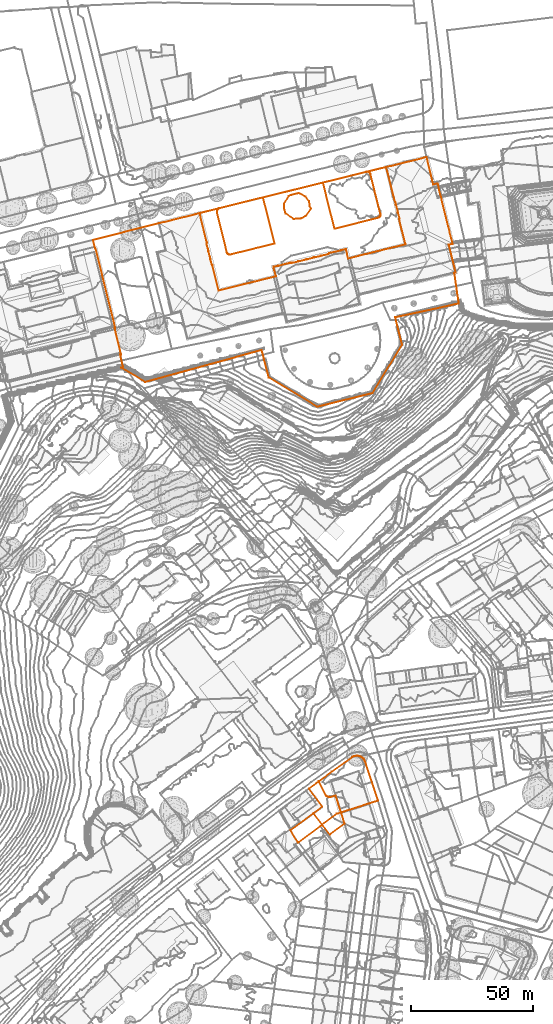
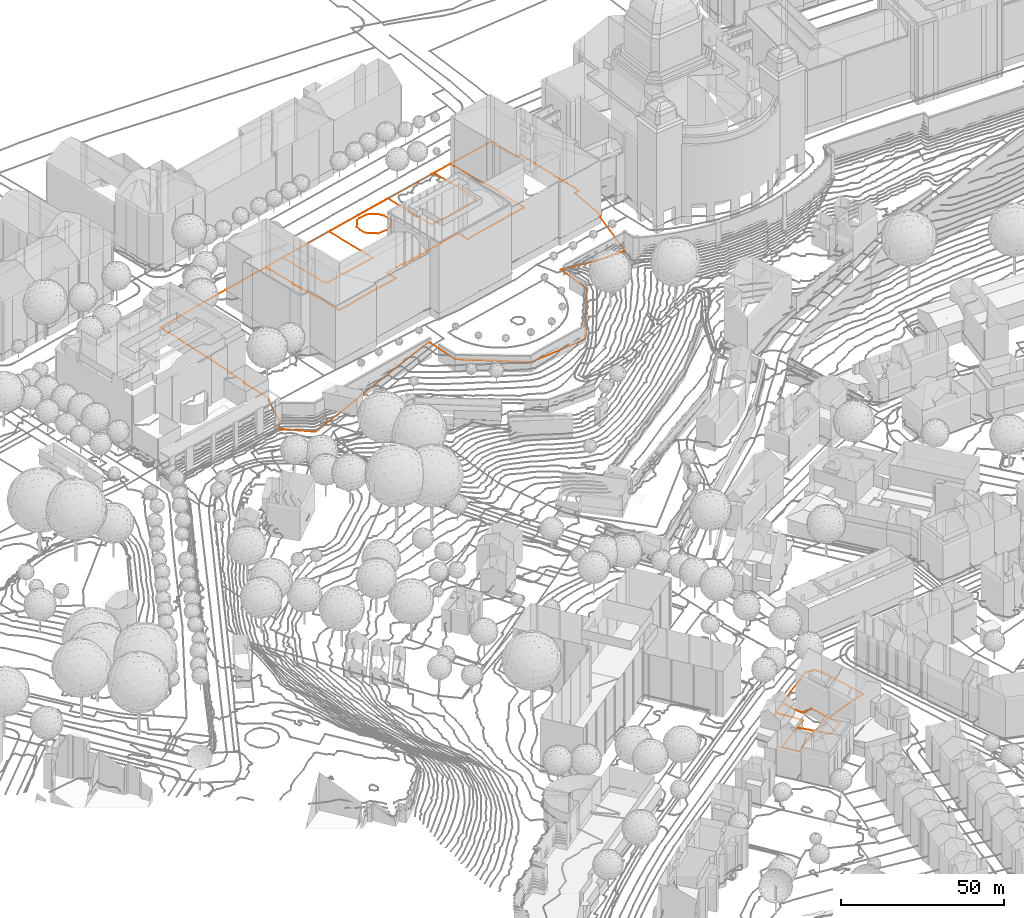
# Not in any storey, part 184 of 494: 5 proxies.
"""IFC2X3 model written with IfcOpenShell, lengths in metres."""

from ifc_helpers import new_model, entity, si_unit, frame, origin_with_axes, place, context, subcontext, project, element, save


model = new_model("IFC2X3")

# Units and contexts
model_context = context("Model", 3, precision=1e-05, world=origin_with_axes())
body_context = subcontext(model_context, "Body", "Model", "MODEL_VIEW")
ifc_project = project(units=[si_unit("AREAUNIT", "SQUARE_METRE"), si_unit("LENGTHUNIT", "METRE")], contexts=[model_context])

# Proxies
proxy_1_placement = place(None, frame((391.2397320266, 387.3197160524, 542.4089774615), z_axis=(0.0, 0.0, 1.0), x_axis=(1.0, 0.0, 0.0)))
element("IfcBuildingElementProxy", 1, at=proxy_1_placement, Name="Roads Outline 55", ObjectType="NOTDEFINED", context=body_context, shape_type="GeometricCurveSet", body=[
    entity("IfcGeometricCurveSet", [entity("IfcPolyline", [entity("IfcCartesianPoint", [0.0, 0.0, 0.0]), entity("IfcCartesianPoint", [7.9539999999, 1.9740000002, 0.1760027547]), entity("IfcCartesianPoint", [7.693, 1.8730000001, 0.1655847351]), entity("IfcCartesianPoint", [7.46, 1.7169999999, 0.1592736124]), entity("IfcCartesianPoint", [7.2680000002, 1.5120000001, 0.1574373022]), entity("IfcCartesianPoint", [7.1270000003, 1.27, 0.1551417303]), entity("IfcCartesianPoint", [7.0440000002, 1.003, 0.1480296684]), entity("IfcCartesianPoint", [7.0220000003, 0.723, 0.1486119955]), entity("IfcCartesianPoint", [7.0630000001, 0.446, 0.1587662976]), entity("IfcCartesianPoint", [11.094, -16.027, 0.2799670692]), entity("IfcCartesianPoint", [11.1910000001, -16.294, 0.2602178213]), entity("IfcCartesianPoint", [11.3460000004, -16.5319999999, 0.2444493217]), entity("IfcCartesianPoint", [11.551, -16.7290000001, 0.2444749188]), entity("IfcCartesianPoint", [11.7960000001, -16.8729999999, 0.2590962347]), entity("IfcCartesianPoint", [12.0670000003, -16.9579999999, 0.2677839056]), entity("IfcCartesianPoint", [12.3500000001, -16.9790000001, 0.2701081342]), entity("IfcCartesianPoint", [12.6310000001, -16.9350000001, 0.2704521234]), entity("IfcCartesianPoint", [30.6899999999, -12.4939999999, 0.2750468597]), entity("IfcCartesianPoint", [25.9440000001, 6.4200000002, 0.3560263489]), entity("IfcCartesianPoint", [50.4950000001, 12.4880000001, 0.4582752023]), entity("IfcCartesianPoint", [55.2239999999, -6.4199999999, 0.3088139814]), entity("IfcCartesianPoint", [73.0930000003, -1.9450000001, 0.5403591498]), entity("IfcCartesianPoint", [73.3570000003, -1.845, 0.5456409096]), entity("IfcCartesianPoint", [73.591, -1.689, 0.5501038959]), entity("IfcCartesianPoint", [73.7850000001, -1.4839999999, 0.557705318]), entity("IfcCartesianPoint", [73.9270000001, -1.2409999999, 0.5624250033]), entity("IfcCartesianPoint", [74.0120000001, -0.973, 0.5620860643]), entity("IfcCartesianPoint", [74.034, -0.692, 0.5612102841]), entity("IfcCartesianPoint", [73.9930000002, -0.4129999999, 0.5596318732]), entity("IfcCartesianPoint", [69.929, 15.9750000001, 0.4086814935]), entity("IfcCartesianPoint", [69.8370000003, 16.2420000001, 0.4213523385]), entity("IfcCartesianPoint", [69.6880000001, 16.4820000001, 0.4480459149]), entity("IfcCartesianPoint", [69.4880000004, 16.682, 0.4774249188]), entity("IfcCartesianPoint", [69.2480000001, 16.8319999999, 0.5012184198]), entity("IfcCartesianPoint", [68.9810000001, 16.9240000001, 0.5214329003]), entity("IfcCartesianPoint", [68.7000000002, 16.953, 0.5250522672]), entity("IfcCartesianPoint", [68.4190000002, 16.9180000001, 0.5309865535]), entity("IfcCartesianPoint", [76.3500000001, 18.878, 0.5024210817]), entity("IfcCartesianPoint", [76.7779999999, 17.132, 0.5441844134]), entity("IfcCartesianPoint", [76.8560000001, 17.1500000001, 0.5471285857]), entity("IfcCartesianPoint", [79.4160000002, 6.737, 0.6301964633]), entity("IfcCartesianPoint", [80.1630000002, 4.2040000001, 0.6048099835]), entity("IfcCartesianPoint", [80.338, 3.496, 0.5679057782]), entity("IfcCartesianPoint", [80.4380000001, 3.5150000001, 0.5683743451]), entity("IfcCartesianPoint", [81.0780000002, 0.9580000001, 0.6405494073]), entity("IfcCartesianPoint", [80.9730000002, 0.9270000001, 0.6427043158]), entity("IfcCartesianPoint", [81.1520000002, 0.213, 0.6856949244]), entity("IfcCartesianPoint", [81.2540000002, 0.233, 0.6870955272]), entity("IfcCartesianPoint", [81.8900000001, -2.3370000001, 0.652331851]), entity("IfcCartesianPoint", [81.6750000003, -2.385, 0.6457994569]), entity("IfcCartesianPoint", [84.2460000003, -12.787, 0.6008000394]), entity("IfcCartesianPoint", [73.8880000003, -15.335, 0.5174241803]), entity("IfcCartesianPoint", [71.1640000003, -16.0109999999, 0.5688116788]), entity("IfcCartesianPoint", [63.7830000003, -17.8499999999, 0.4865151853]), entity("IfcCartesianPoint", [60.7830000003, -18.5970000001, 0.2210141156]), entity("IfcCartesianPoint", [60.2970000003, -16.6159999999, 0.5914661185]), entity("IfcCartesianPoint", [60.3700000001, -16.5989999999, 0.5918001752]), entity("IfcCartesianPoint", [59.9010000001, -14.7139999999, 0.5361965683]), entity("IfcCartesianPoint", [58.0100000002, -15.173, 0.5741794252]), entity("IfcCartesianPoint", [58.0220000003, -15.2409999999, 0.5795991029]), entity("IfcCartesianPoint", [54.0830000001, -16.156, 0.6511097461]), entity("IfcCartesianPoint", [52.9110000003, -16.4279999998, 0.6690668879]), entity("IfcCartesianPoint", [52.963, -16.5829999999, 0.646938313]), entity("IfcCartesianPoint", [52.4939999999, -16.7239999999, 0.6504026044]), entity("IfcCartesianPoint", [52.5220000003, -16.8229999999, 0.6362807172]), entity("IfcCartesianPoint", [49.9539999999, -17.463, 0.7057848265]), entity("IfcCartesianPoint", [49.9210000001, -17.3640000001, 0.7201063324]), entity("IfcCartesianPoint", [49.4300000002, -17.4879999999, 0.7382402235]), entity("IfcCartesianPoint", [49.452, -17.5859999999, 0.7268454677]), entity("IfcCartesianPoint", [46.8850000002, -18.219, 0.7538668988]), entity("IfcCartesianPoint", [46.858, -18.122, 0.7680390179]), entity("IfcCartesianPoint", [46.3650000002, -18.247, 0.7682668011]), entity("IfcCartesianPoint", [46.3820000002, -18.3359999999, 0.7555358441]), entity("IfcCartesianPoint", [43.8149999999, -18.976, 0.7491621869]), entity("IfcCartesianPoint", [43.7880000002, -18.8769999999, 0.7637245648]), entity("IfcCartesianPoint", [43.2910000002, -18.9949999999, 0.7623552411]), entity("IfcCartesianPoint", [43.3170000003, -19.098, 0.7472676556]), entity("IfcCartesianPoint", [40.7460000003, -19.7319999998, 0.7039292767]), entity("IfcCartesianPoint", [40.7280000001, -19.638, 0.7169534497]), entity("IfcCartesianPoint", [40.2260000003, -19.746, 0.7079273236]), entity("IfcCartesianPoint", [40.2510000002, -19.8529999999, 0.6925935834]), entity("IfcCartesianPoint", [37.682, -20.4819999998, 0.7117748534]), entity("IfcCartesianPoint", [37.656, -20.3859999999, 0.7212390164]), entity("IfcCartesianPoint", [37.1830000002, -20.493, 0.741696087]), entity("IfcCartesianPoint", [37.1370000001, -20.327, 0.7507485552]), entity("IfcCartesianPoint", [35.9850000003, -20.6259999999, 0.7504715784]), entity("IfcCartesianPoint", [32.0619999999, -21.645, 0.5340932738]), entity("IfcCartesianPoint", [32.0470000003, -21.577, 0.5313535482]), entity("IfcCartesianPoint", [30.1610000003, -22.0279999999, 0.4911811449]), entity("IfcCartesianPoint", [30.6380000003, -23.9369999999, 0.560189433]), entity("IfcCartesianPoint", [30.7060000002, -23.9269999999, 0.562197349]), entity("IfcCartesianPoint", [31.2390000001, -25.899, 0.4358210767]), entity("IfcCartesianPoint", [28.2150000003, -26.6439999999, 0.4350699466]), entity("IfcCartesianPoint", [20.8360000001, -28.4639999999, 0.5397216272]), entity("IfcCartesianPoint", [18.0980000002, -29.1410000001, 0.427535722]), entity("IfcCartesianPoint", [7.727, -31.7220000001, 0.292910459]), entity("IfcCartesianPoint", [5.1670000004, -21.301, 0.2705185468]), entity("IfcCartesianPoint", [4.9640000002, -21.3489999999, 0.2544884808]), entity("IfcCartesianPoint", [4.3289999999, -18.781, 0.245888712]), entity("IfcCartesianPoint", [4.4330000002, -18.7549999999, 0.2537899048]), entity("IfcCartesianPoint", [4.2600000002, -18.0430000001, 0.2576042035]), entity("IfcCartesianPoint", [4.159, -18.0659999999, 0.2499798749]), entity("IfcCartesianPoint", [3.5240000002, -15.5049999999, 0.247602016]), entity("IfcCartesianPoint", [3.6260000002, -15.4819999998, 0.2517959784]), entity("IfcCartesianPoint", [3.4539999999, -14.7679999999, 0.2240389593]), entity("IfcCartesianPoint", [3.352, -14.7949999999, 0.2199966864]), entity("IfcCartesianPoint", [2.713, -12.23, 0.1057283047]), entity("IfcCartesianPoint", [2.9240000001, -12.182, 0.1150124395]), entity("IfcCartesianPoint", [0.3930000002, -1.925, 0.0307673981]), entity("IfcCartesianPoint", [0.3530000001, -1.7609999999, 0.026675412]), entity("IfcCartesianPoint", [0.429, -1.7379999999, 0.0268372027]), entity("IfcCartesianPoint", [0.0, 0.0, 0.0])])]),
])
proxy_2_placement = place(None, frame((435.9947320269, 151.5907160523, 502.5406658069), z_axis=(0.0, 0.0, 1.0), x_axis=(1.0, 0.0, 0.0)))
element("IfcBuildingElementProxy", 2, at=proxy_2_placement, Name="Roads Outline 115", ObjectType="NOTDEFINED", context=body_context, shape_type="GeometricCurveSet", body=[
    entity("IfcGeometricCurveSet", [entity("IfcPolyline", [entity("IfcCartesianPoint", [0.0, 0.0, 0.0]), entity("IfcCartesianPoint", [4.0089999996, 2.9370000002, 0.1239977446]), entity("IfcCartesianPoint", [6.983, -2.818, -0.4638702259]), entity("IfcCartesianPoint", [7.2439999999, -3.0599999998, -0.522674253]), entity("IfcCartesianPoint", [7.5409999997, -3.2559999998, -0.5872016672]), entity("IfcCartesianPoint", [7.8659999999, -3.3999999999, -0.6632221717]), entity("IfcCartesianPoint", [8.21, -3.4889999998, -0.7375795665]), entity("IfcCartesianPoint", [8.5639999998, -3.5199999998, -0.7332698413]), entity("IfcCartesianPoint", [8.9189999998, -3.4919999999, -0.7171530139]), entity("IfcCartesianPoint", [10.9199999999, -2.8569999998, -0.5019146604]), entity("IfcCartesianPoint", [13.1199999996, -9.7859999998, -0.6730191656]), entity("IfcCartesianPoint", [14.5669999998, -14.3419999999, -0.5294144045]), entity("IfcCartesianPoint", [8.551, -18.8319999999, 0.3332273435]), entity("IfcCartesianPoint", [5.4069999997, -14.7779999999, 0.118201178]), entity("IfcCartesianPoint", [1.804, -10.1309999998, -0.1540762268]), entity("IfcCartesianPoint", [5.4699999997, -7.4099999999, -0.3656011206]), entity("IfcCartesianPoint", [0.0, 0.0, 0.0])])]),
])
proxy_3_placement = place(None, frame((347.5157320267, 376.3247160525, 541.7142049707), z_axis=(0.0, 0.0, 1.0), x_axis=(1.0, 0.0, 0.0)))
element("IfcBuildingElementProxy", 3, at=proxy_3_placement, Name="Cadastre 17", ObjectType="NOTDEFINED", context=body_context, shape_type="GeometricCurveSet", body=[
    entity("IfcGeometricCurveSet", [entity("IfcPolyline", [entity("IfcCartesianPoint", [0.0, 0.0, 0.0]), entity("IfcCartesianPoint", [27.1069999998, 6.8729999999, 0.4775137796]), entity("IfcCartesianPoint", [28.8480000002, 7.3059999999, 0.5496198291]), entity("IfcCartesianPoint", [28.8670000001, 7.2389999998, 0.548870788]), entity("IfcCartesianPoint", [41.9709999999, 10.504, 0.6834874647]), entity("IfcCartesianPoint", [41.9590000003, 10.567, 0.6843291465]), entity("IfcCartesianPoint", [121.8200000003, 30.3049999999, 1.2338030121]), entity("IfcCartesianPoint", [121.838, 30.2349999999, 1.2336385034]), entity("IfcCartesianPoint", [134.949, 33.4789999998, 1.1926426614]), entity("IfcCartesianPoint", [134.9360000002, 33.5459999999, 1.1941390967]), entity("IfcCartesianPoint", [136.6809999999, 33.9709999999, 1.1454080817]), entity("IfcCartesianPoint", [137.1239999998, 32.2289999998, 1.1894799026]), entity("IfcCartesianPoint", [137.0580000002, 32.2079999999, 1.1928206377]), entity("IfcCartesianPoint", [139.4070000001, 22.737, 1.2930671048]), entity("IfcCartesianPoint", [141.2290000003, 23.1669999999, 1.2966861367]), entity("IfcCartesianPoint", [141.6570000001, 21.433, 1.2686953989]), entity("IfcCartesianPoint", [141.5899999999, 21.416, 1.2687752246]), entity("IfcCartesianPoint", [142.4210000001, 18.054, 1.2287357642]), entity("IfcCartesianPoint", [142.4890000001, 18.071, 1.2286693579]), entity("IfcCartesianPoint", [142.8620000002, 16.5589999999, 1.2106692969]), entity("IfcCartesianPoint", [142.7949999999, 16.54, 1.2107100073]), entity("IfcCartesianPoint", [145.6529999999, 4.9939999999, 0.9844689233]), entity("IfcCartesianPoint", [145.73, 5.014, 0.9822310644]), entity("IfcCartesianPoint", [146.1000000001, 3.5, 0.9686740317]), entity("IfcCartesianPoint", [146.031, 3.4739999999, 0.9703412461]), entity("IfcCartesianPoint", [146.858, 0.1239999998, 0.8823697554]), entity("IfcCartesianPoint", [146.9330000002, 0.1339999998, 0.8815106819]), entity("IfcCartesianPoint", [147.361, -1.6140000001, 0.5264616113]), entity("IfcCartesianPoint", [145.773, -2.0080000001, 0.5164449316]), entity("IfcCartesianPoint", [148.5819999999, -13.3540000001, -2.0447577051]), entity("IfcCartesianPoint", [148.0, -13.4980000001, -1.9539830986]), entity("IfcCartesianPoint", [149.8560000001, -26.023, -7.9292750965]), entity("IfcCartesianPoint", [137.628, -28.7140000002, -5.961913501]), entity("IfcCartesianPoint", [123.7689999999, -31.7050000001, -2.4076516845]), entity("IfcCartesianPoint", [126.5890000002, -42.8760000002, -3.981246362]), entity("IfcCartesianPoint", [114.4900000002, -62.7280000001, -6.4379847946]), entity("IfcCartesianPoint", [91.8820000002, -68.3600000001, -3.7891659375]), entity("IfcCartesianPoint", [72.0290000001, -56.3200000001, -2.9941964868]), entity("IfcCartesianPoint", [70.0840000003, -49.03, -2.4544519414]), entity("IfcCartesianPoint", [69.1140000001, -45.0800000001, -2.3423547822]), entity("IfcCartesianPoint", [21.4199999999, -58.2110000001, -11.3550115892]), entity("IfcCartesianPoint", [11.4810000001, -52.311, -10.3635002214]), entity("IfcCartesianPoint", [12.2990000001, -51.9850000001, -7.9863507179]), entity("IfcCartesianPoint", [11.1140000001, -47.007, -2.4555660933]), entity("IfcCartesianPoint", [11.497, -46.9110000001, -2.4128762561]), entity("IfcCartesianPoint", [8.8560000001, -36.1470000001, -1.9107617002]), entity("IfcCartesianPoint", [9.1460000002, -36.078, -1.9149801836]), entity("IfcCartesianPoint", [1.1400000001, -3.8160000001, -0.1567824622]), entity("IfcCartesianPoint", [0.9720000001, -3.8570000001, -0.1541655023]), entity("IfcCartesianPoint", [0.0, 0.0, 0.0])])]),
])
proxy_4_placement = place(None, frame((428.4367320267, 134.5097160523, 502.561125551), z_axis=(0.0, 0.0, 1.0), x_axis=(1.0, 0.0, 0.0)))
element("IfcBuildingElementProxy", 4, at=proxy_4_placement, Name="Cadastre 196", ObjectType="NOTDEFINED", context=body_context, shape_type="GeometricCurveSet", body=[
    entity("IfcGeometricCurveSet", [entity("IfcPolyline", [entity("IfcCartesianPoint", [0.0, 0.0, 0.0]), entity("IfcCartesianPoint", [13.0279999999, 9.6710000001, -0.3860608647]), entity("IfcCartesianPoint", [7.5580000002, 17.081, -0.0204597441]), entity("IfcCartesianPoint", [16.9070000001, 23.9310000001, 0.334629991]), entity("IfcCartesianPoint", [25.236, 29.8420000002, 0.6904770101]), entity("IfcCartesianPoint", [25.6329999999, 30.0850000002, 0.7085374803]), entity("IfcCartesianPoint", [26.0589999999, 30.273, 0.6447314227]), entity("IfcCartesianPoint", [26.5060000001, 30.4040000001, 0.5625382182]), entity("IfcCartesianPoint", [26.966, 30.473, 0.4888255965]), entity("IfcCartesianPoint", [27.4309999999, 30.4810000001, 0.4179082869]), entity("IfcCartesianPoint", [27.8939999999, 30.4270000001, 0.3654890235]), entity("IfcCartesianPoint", [28.3450000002, 30.3120000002, 0.3243273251]), entity("IfcCartesianPoint", [28.7790000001, 30.138, 0.2823823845]), entity("IfcCartesianPoint", [29.1869999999, 29.9070000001, 0.2597841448]), entity("IfcCartesianPoint", [29.5600000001, 29.6240000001, 0.2440791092]), entity("IfcCartesianPoint", [29.8909999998, 29.2930000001, 0.2447197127]), entity("IfcCartesianPoint", [30.176, 28.922, 0.2505122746]), entity("IfcCartesianPoint", [30.409, 28.5160000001, 0.268604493]), entity("IfcCartesianPoint", [30.585, 28.0820000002, 0.2895961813]), entity("IfcCartesianPoint", [35.855, 12.1310000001, -0.0187651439]), entity("IfcCartesianPoint", [32.2519999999, 10.983, 0.0634854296]), entity("IfcCartesianPoint", [20.7209999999, 7.3080000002, -0.6928071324]), entity("IfcCartesianPoint", [18.8470000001, 6.7110000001, -0.7718115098]), entity("IfcCartesianPoint", [12.2280000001, 1.7510000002, 0.1921244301]), entity("IfcCartesianPoint", [3.29, -4.96, 0.3271224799]), entity("IfcCartesianPoint", [3.0600000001, -5.1299999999, 0.3157943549]), entity("IfcCartesianPoint", [0.0, 0.0, 0.0])])]),
])
proxy_5_placement = place(None, frame((425.7501488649, 391.1707160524, 543.0), z_axis=(0.0, 0.0, 1.0), x_axis=(1.0, 0.0, 0.0)))
element("IfcBuildingElementProxy", 5, at=proxy_5_placement, Name="Contour Line 543.0 m", ObjectType="NOTDEFINED", context=body_context, shape_type="GeometricCurveSet", body=[
    entity("IfcGeometricCurveSet", [entity("IfcPolyline", [entity("IfcCartesianPoint", [7.1375279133, -6.0, 0.0]), entity("IfcCartesianPoint", [3.9275831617, -6.2620898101, 0.0]), entity("IfcCartesianPoint", [0.629245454, -4.0, 0.0]), entity("IfcCartesianPoint", [0.1145694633, -2.0, 0.0]), entity("IfcCartesianPoint", [0.0, 0.0, 0.0]), entity("IfcCartesianPoint", [1.9275831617, 3.1262344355, 0.0]), entity("IfcCartesianPoint", [2.9275831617, 3.6130595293, 0.0]), entity("IfcCartesianPoint", [5.9275831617, 4.3209428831, 0.0]), entity("IfcCartesianPoint", [8.9275831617, 2.8861283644, 0.0]), entity("IfcCartesianPoint", [10.288741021, 1.0, 0.0]), entity("IfcCartesianPoint", [10.5862038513, -1.0, 0.0]), entity("IfcCartesianPoint", [11.0407686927, -2.0, 0.0]), entity("IfcCartesianPoint", [8.9275831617, -5.085081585, 0.0]), entity("IfcCartesianPoint", [7.1375279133, -6.0, 0.0])])]),
])

save(model, "model.ifc")
